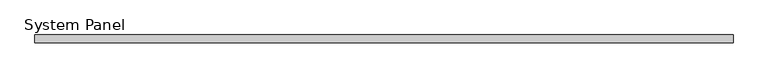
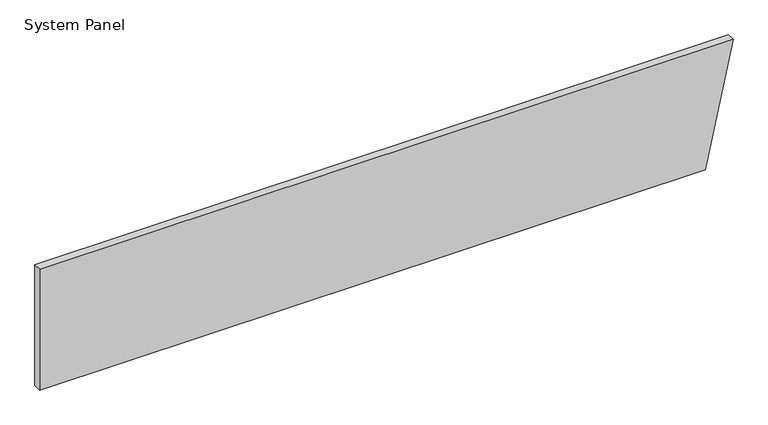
"""IFC4 building model written with IfcOpenShell, lengths in millimetres: plate geometry, System Panel : Equitilt_FlameGuard_75mm_Plain_Surfmist."""

from ifc_helpers import new_model, si_unit, frame, origin, place, context, project, spatial, polyline, outline, extrude, source, transform, mapped, element, save


def system_panel_7e135db5(model_context):
    return source(origin(), model_context, "Body", "SweptSolid", [
        extrude(outline(polyline([(0.0, -3255.8716619), (0.0, 2995.0), (1200.0, 3255.8716619), (1200.0, -3255.8716619), (0.0, -3255.8716619)])), frame((0.0, -75.0, 0.0), z_axis=(0.0, 1.0, 0.0), x_axis=(0.0, 0.0, 1.0)), (0.0, 0.0, 1.0), 75.0),
    ])


if __name__ == "__main__":
    model = new_model("IFC4")
    model_context = context("Model", 3, world=origin())
    ifc_project = project(units=[si_unit("LENGTHUNIT", "METRE", prefix="MILLI")], contexts=[model_context])
    site = spatial("IfcSite", under=ifc_project)
    building = spatial("IfcBuilding", under=site)
    placement = place(None, origin())
    system_panel_shape = system_panel_7e135db5(model_context)
    element("IfcPlate", 1, ObjectType="System Panel : Equitilt_FlameGuard_75mm_Plain_Surfmist", at=placement, inside=building, context=model_context, shape_type="MappedRepresentation", body=[
        mapped(system_panel_shape, transform((0.0, 0.0, 0.0), x_axis=(1.0, 0.0, 0.0), y_axis=(0.0, 1.0, 0.0), z_axis=(0.0, 0.0, 1.0))),
    ])
    save(model, "model.ifc")
